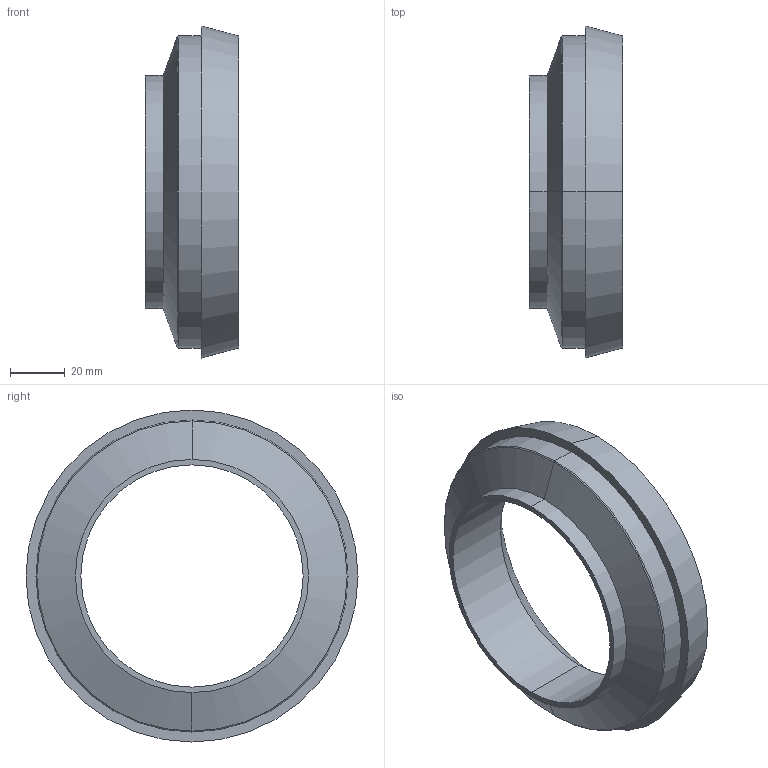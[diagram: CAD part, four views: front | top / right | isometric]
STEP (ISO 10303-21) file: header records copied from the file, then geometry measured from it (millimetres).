
FILE_DESCRIPTION (( 'STEP AP203' ), '1' );
FILE_NAME ('3D-M2024P_100-80_174211185.STEP', '2024-09-06T10:06:58', ( '' ), ( '' ), 'SwSTEP 2.0', 'SolidWorks 2024', '' );
FILE_SCHEMA (( 'CONFIG_CONTROL_DESIGN' ));
Length unit declared in the file: millimetre
Products named in the file (1): 3D-M2024P_100-80_174211185
Bounding box: 34 x 121 x 121 mm (x, y, z)
Volume: 125328.2 mm3; surface area: 28982.6 mm2
Topology: 1 solids, 1 shells, 17 faces, 34 edges, 20 vertices
Faces by surface type: cone 6, cylinder 6, plane 3, torus 2
Entity records: 527 total; most frequent: DIRECTION 92, CARTESIAN_POINT 72, ORIENTED_EDGE 68, AXIS2_PLACEMENT_3D 40, EDGE_CURVE 34, CIRCLE 22, VERTEX_POINT 20, EDGE_LOOP 20
